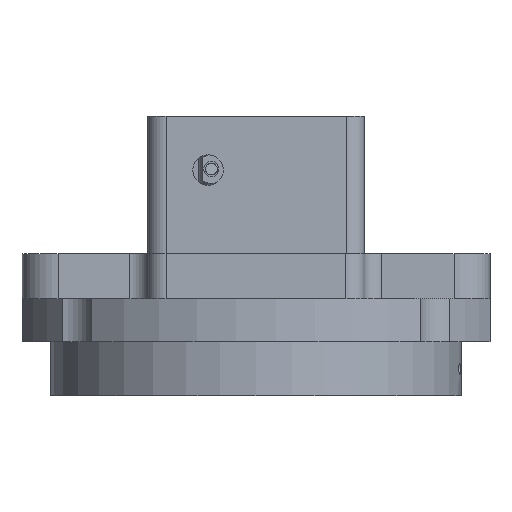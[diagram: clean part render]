
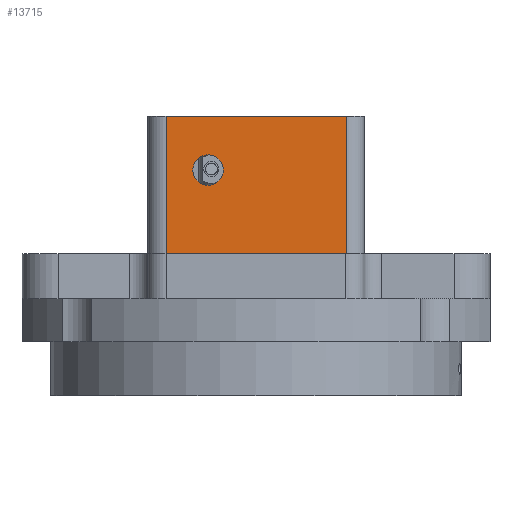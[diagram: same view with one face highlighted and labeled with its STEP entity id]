
A CAD part, front view. The second image highlights one B-rep face of the part: STEP entity #13715.
In plain terms, the highlighted planar face has unit normal (0, -1, 0).
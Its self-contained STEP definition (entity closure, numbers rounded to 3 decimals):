
#593 = EDGE_CURVE ( 'NONE', #6182, #1359, #13590, .T. ) ;
#601 = LINE ( 'NONE', #14182, #12053 ) ;
#616 = ORIENTED_EDGE ( 'NONE', *, *, #12235, .T. ) ;
#1005 = FACE_BOUND ( 'NONE', #8126, .T. ) ;
#1359 = VERTEX_POINT ( 'NONE', #5709 ) ;
#1758 = VECTOR ( 'NONE', #3479, 1000. ) ;
#1784 = CIRCLE ( 'NONE', #12440, 4.25 ) ;
#2311 = DIRECTION ( 'NONE',  ( -1., 0., 0. ) ) ;
#2619 = CARTESIAN_POINT ( 'NONE',  ( 16.638, -84.418, 169.95 ) ) ;
#2706 = VECTOR ( 'NONE', #5010, 1000. ) ;
#3048 = LINE ( 'NONE', #10531, #2706 ) ;
#3122 = EDGE_CURVE ( 'NONE', #1359, #14189, #7572, .T. ) ;
#3379 = PLANE ( 'NONE',  #12995 ) ;
#3479 = DIRECTION ( 'NONE',  ( 0., 0., -1. ) ) ;
#3722 = CARTESIAN_POINT ( 'NONE',  ( 11.638, -84.418, 208.15 ) ) ;
#4219 = DIRECTION ( 'NONE',  ( -1., 0., 0. ) ) ;
#4489 = VECTOR ( 'NONE', #12614, 1000. ) ;
#4545 = CARTESIAN_POINT ( 'NONE',  ( -30.912, -84.418, 193.15 ) ) ;
#5010 = DIRECTION ( 'NONE',  ( 0., 0., 1. ) ) ;
#5099 = EDGE_CURVE ( 'NONE', #11202, #13284, #5462, .T. ) ;
#5462 = CIRCLE ( 'NONE', #13031, 4.25 ) ;
#5709 = CARTESIAN_POINT ( 'NONE',  ( -38.362, -84.418, 169.95 ) ) ;
#5735 = DIRECTION ( 'NONE',  ( 0., -1., 0. ) ) ;
#6071 = VERTEX_POINT ( 'NONE', #3722 ) ;
#6182 = VERTEX_POINT ( 'NONE', #13906 ) ;
#6307 = CARTESIAN_POINT ( 'NONE',  ( -26.662, -84.418, 193.15 ) ) ;
#6481 = ORIENTED_EDGE ( 'NONE', *, *, #3122, .T. ) ;
#6700 = CARTESIAN_POINT ( 'NONE',  ( -22.412, -84.418, 193.15 ) ) ;
#6728 = CARTESIAN_POINT ( 'NONE',  ( 16.638, -84.418, 208.15 ) ) ;
#7422 = DIRECTION ( 'NONE',  ( -1., 0., 0. ) ) ;
#7572 = LINE ( 'NONE', #2619, #4489 ) ;
#7676 = EDGE_CURVE ( 'NONE', #6071, #6182, #601, .T. ) ;
#8126 = EDGE_LOOP ( 'NONE', ( #9079, #10275 ) ) ;
#8406 = EDGE_CURVE ( 'NONE', #13284, #11202, #1784, .T. ) ;
#8951 = DIRECTION ( 'NONE',  ( 0., -1., 0. ) ) ;
#9079 = ORIENTED_EDGE ( 'NONE', *, *, #8406, .F. ) ;
#9324 = ORIENTED_EDGE ( 'NONE', *, *, #7676, .T. ) ;
#9664 = CARTESIAN_POINT ( 'NONE',  ( 11.638, -84.418, 169.95 ) ) ;
#10114 = CARTESIAN_POINT ( 'NONE',  ( -38.362, -84.418, 208.15 ) ) ;
#10275 = ORIENTED_EDGE ( 'NONE', *, *, #5099, .F. ) ;
#10531 = CARTESIAN_POINT ( 'NONE',  ( 11.638, -84.418, 208.15 ) ) ;
#11202 = VERTEX_POINT ( 'NONE', #6700 ) ;
#12053 = VECTOR ( 'NONE', #4219, 1000. ) ;
#12127 = FACE_OUTER_BOUND ( 'NONE', #13625, .T. ) ;
#12235 = EDGE_CURVE ( 'NONE', #14189, #6071, #3048, .T. ) ;
#12377 = CARTESIAN_POINT ( 'NONE',  ( -26.662, -84.418, 193.15 ) ) ;
#12440 = AXIS2_PLACEMENT_3D ( 'NONE', #6307, #14068, #7422 ) ;
#12442 = ORIENTED_EDGE ( 'NONE', *, *, #593, .T. ) ;
#12614 = DIRECTION ( 'NONE',  ( 1., 0., 0. ) ) ;
#12995 = AXIS2_PLACEMENT_3D ( 'NONE', #6728, #8951, #2311 ) ;
#13031 = AXIS2_PLACEMENT_3D ( 'NONE', #12377, #5735, #13483 ) ;
#13284 = VERTEX_POINT ( 'NONE', #4545 ) ;
#13483 = DIRECTION ( 'NONE',  ( -1., 0., 0. ) ) ;
#13590 = LINE ( 'NONE', #10114, #1758 ) ;
#13625 = EDGE_LOOP ( 'NONE', ( #6481, #616, #9324, #12442 ) ) ;
#13715 = ADVANCED_FACE ( 'NONE', ( #1005, #12127 ), #3379, .T. ) ;
#13906 = CARTESIAN_POINT ( 'NONE',  ( -38.362, -84.418, 208.15 ) ) ;
#14068 = DIRECTION ( 'NONE',  ( 0., -1., 0. ) ) ;
#14182 = CARTESIAN_POINT ( 'NONE',  ( 16.638, -84.418, 208.15 ) ) ;
#14189 = VERTEX_POINT ( 'NONE', #9664 ) ;
